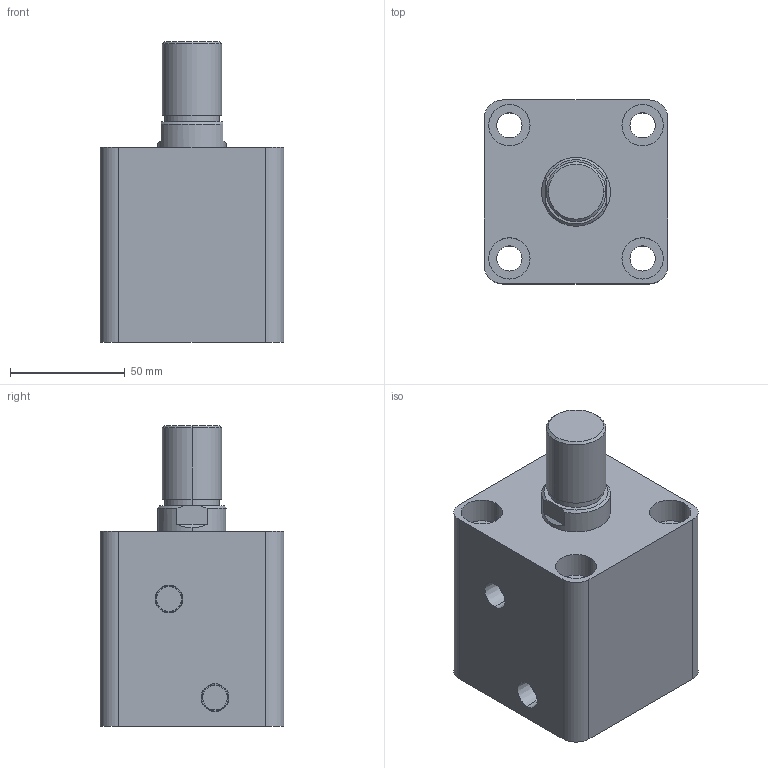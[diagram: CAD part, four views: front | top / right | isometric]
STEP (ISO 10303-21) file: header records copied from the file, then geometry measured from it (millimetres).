
FILE_DESCRIPTION (( 'STEP AP203' ), '1' );
FILE_NAME ('HTB-SD50-25W.STEP', '2019-10-07T07:07:33', ( '微软用户' ), ( '微软中国' ), 'SwSTEP 2.0', 'SolidWorks 2012', '' );
FILE_SCHEMA (( 'CONFIG_CONTROL_DESIGN' ));
Length unit declared in the file: millimetre
Products named in the file (3): HTB-SD50-25W; HTB-SD50-25W活塞杆; HTB-SD50-25掛极
Assembly tree (2 placements, depth 2):
  HTB-SD50-25W
    HTB-SD50-25掛极
    HTB-SD50-25W活塞杆
Bounding box: 80 x 80 x 131 mm (x, y, z)
Volume: 484977.4 mm3; surface area: 80908.9 mm2
Topology: 2 solids, 2 shells, 87 faces, 190 edges, 124 vertices
Faces by surface type: cylinder 44, plane 29, cone 8, torus 6
Entity records: 2761 total; most frequent: DIRECTION 478, CARTESIAN_POINT 434, ORIENTED_EDGE 380, AXIS2_PLACEMENT_3D 204, EDGE_CURVE 190, VERTEX_POINT 124, CIRCLE 112, EDGE_LOOP 112
